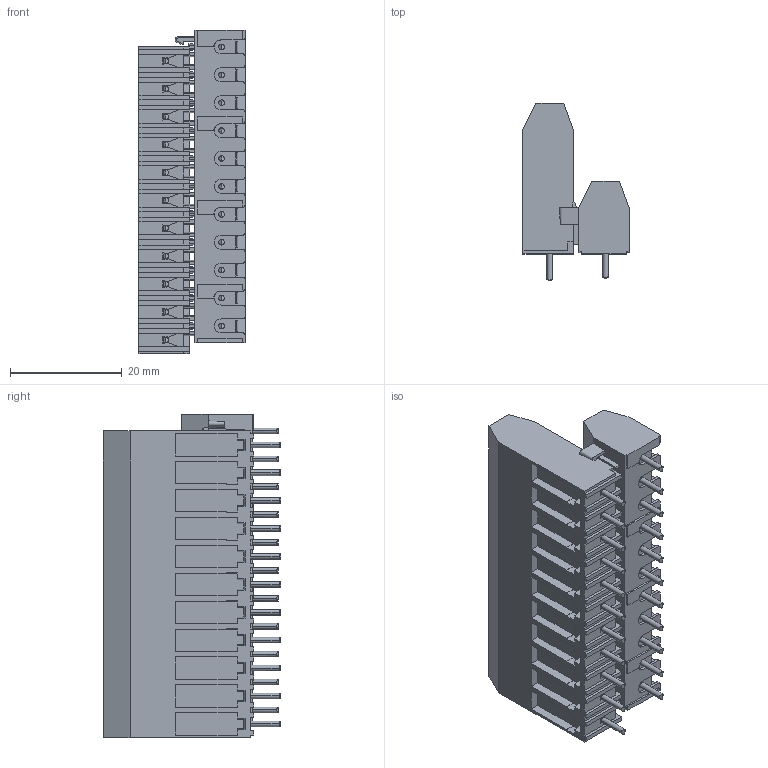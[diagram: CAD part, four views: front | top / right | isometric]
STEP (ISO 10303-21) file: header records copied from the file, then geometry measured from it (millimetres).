
FILE_DESCRIPTION (( 'STEP AP203' ), '1' );
FILE_NAME ('978-EN-DS-22.STEP', '2017-02-06T17:40:45', ( '' ), ( '' ), 'SwSTEP 2.0', 'SolidWorks 2016', '' );
FILE_SCHEMA (( 'CONFIG_CONTROL_DESIGN' ));
Length unit declared in the file: millimetre
Products named in the file (1): 978-EN-DS-22
Bounding box: 19 x 31.8 x 58 mm (x, y, z)
Volume: 15669.4 mm3; surface area: 11819 mm2
Topology: 1 solids, 1 shells, 2621 faces, 7456 edges, 4873 vertices
Faces by surface type: plane 2100, cylinder 389, cone 99, bspline 33
Entity records: 86215 total; most frequent: CARTESIAN_POINT 18297, ORIENTED_EDGE 14912, DIRECTION 13008, EDGE_CURVE 7456, VECTOR 6006, LINE 6006, VERTEX_POINT 4873, AXIS2_PLACEMENT_3D 3501
